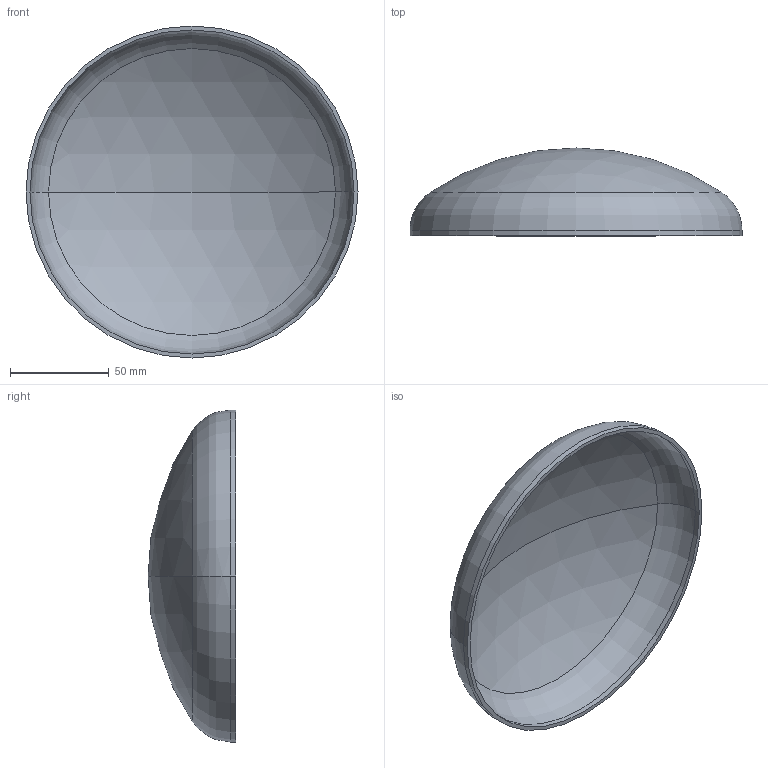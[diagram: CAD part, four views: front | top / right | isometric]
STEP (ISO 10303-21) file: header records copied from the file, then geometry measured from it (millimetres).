
FILE_DESCRIPTION (( 'STEP AP203' ), '1' );
FILE_NAME ('3D_R365_168.3x2_173371990.STEP', '2024-07-16T06:55:00', ( '' ), ( '' ), 'SwSTEP 2.0', 'SolidWorks 2024', '' );
FILE_SCHEMA (( 'CONFIG_CONTROL_DESIGN' ));
Length unit declared in the file: millimetre
Products named in the file (1): 3D_R365_168.3x2_173371990
Bounding box: 168.3 x 44.5 x 168.3 mm (x, y, z)
Volume: 61586.4 mm3; surface area: 62639.6 mm2
Topology: 1 solids, 1 shells, 13 faces, 24 edges, 14 vertices
Faces by surface type: sphere 4, torus 4, cylinder 4, plane 1
Entity records: 407 total; most frequent: DIRECTION 72, CARTESIAN_POINT 52, ORIENTED_EDGE 48, AXIS2_PLACEMENT_3D 34, EDGE_CURVE 24, CIRCLE 20, EDGE_LOOP 14, VERTEX_POINT 14
